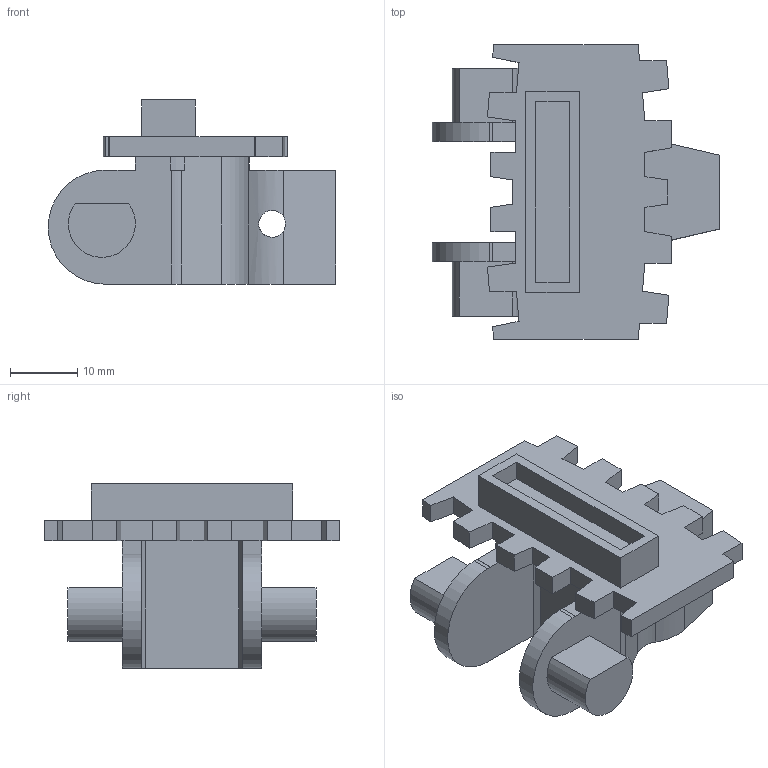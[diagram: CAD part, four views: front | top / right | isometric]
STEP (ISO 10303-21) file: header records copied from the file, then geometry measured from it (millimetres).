
FILE_DESCRIPTION (( 'STEP AP214' ), '1' );
FILE_NAME ('FKTF 5x5.5D-P.STEP', '2011-09-28T07:03:44', ( '.' ), ( '' ), 'SwSTEP 2.0', 'SolidWorks 2010', '' );
FILE_SCHEMA (( 'AUTOMOTIVE_DESIGN' ));
Length unit declared in the file: millimetre
Products named in the file (1): FKTF 5x5.5D-P
Bounding box: 42.9 x 44 x 27.5 mm (x, y, z)
Volume: 12749.8 mm3; surface area: 7030.6 mm2
Topology: 1 solids, 1 shells, 102 faces, 291 edges, 194 vertices
Faces by surface type: plane 85, cylinder 17
Entity records: 3405 total; most frequent: CARTESIAN_POINT 686, ORIENTED_EDGE 582, DIRECTION 521, EDGE_CURVE 291, LINE 251, VECTOR 251, VERTEX_POINT 194, AXIS2_PLACEMENT_3D 135
